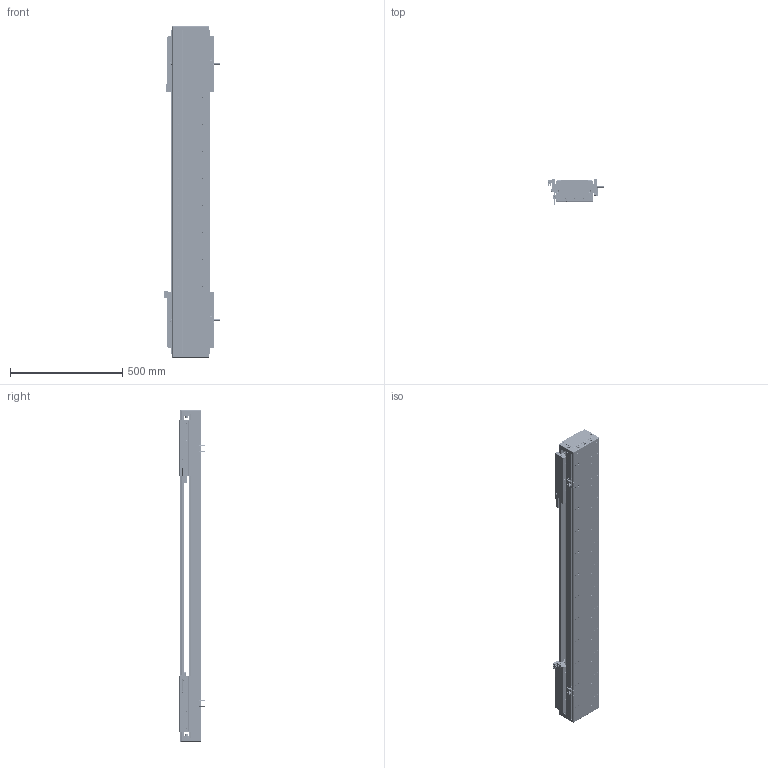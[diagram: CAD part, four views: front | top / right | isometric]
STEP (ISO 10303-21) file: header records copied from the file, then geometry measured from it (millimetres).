
FILE_DESCRIPTION (( 'STEP AP203' ), '1' );
FILE_NAME ('DA-C165-2-C3-T860-C010-0.2 直线电机.STEP', '2023-06-13T09:31:01', ( '微软用户' ), ( '微软中国' ), 'SwSTEP 2.0', 'SolidWorks 2019', '' );
FILE_SCHEMA (( 'CONFIG_CONTROL_DESIGN' ));
Length unit declared in the file: millimetre
Products named in the file (19): 葩璃 CKM03-W075-C1C2-TP-3.0^DA-C165-C3-T-C010-0.2-N 眻盄萇儂; 复件 DA126-GYP-ZJ-00 中间光电感应片^DA-C165-C3-T-C010-0.2-N 直线电机; 复件 六角薄螺母 M3^DA-C165-C3-T-C010-0.2-N 直线电机_GB_FASTENER_NUT_STNAB M3-C; 葩璃 CKM01-W075-TRL^DA-C165-C3-T-C010-0.2-N 眻盄萇儂; IU-CU165-L 菁釱絳寢; 葩璃 DA95-GT-T-00^IU-CU165-L 菁釱絳寢_T; 葩璃 PM-T45^DA-C165-C3-T-C010-0.2-N 眻盄萇儂; 珨极趙賑雄怢啣C3-wf; 复件 DA165-DG-H-N-00 端盖^DA-C165-C3-T-C010-0.2-N 直线电机; 复件 DKW-HXJ-JY-00 缓冲橡胶^DA-C165-C3-T-C010-0.2-N 直线电机; 复件 DA165-GYP-00 光电感应片^DA-C165-C3-T-C010-0.2-N 直线电机; 葩璃 PM-Y45^DA-C165-C3-T-C010-0.2-N 眻盄萇儂; 复件 XD-U-02L 磁栅尺^DA-C165-C3-T-C010-0.2-N 直线电机_T; 复件 DA165-T-002-00 盖板^DA-C165-C3-T-C010-0.2-N 直线电机_0840-002-00; 复件 CU165 底座^IU-CU165-L 底座导轨_L1440; 复件 66338-1000-006-00 光电感应块^DA-C165-C3-T-C010-0.2-N 直线电机; 复件 DA95-HXJ-00 缓冲橡胶^DA-C165-C3-T-C010-0.2-N 直线电机; 复件 DMA-010-0.2 读数头^DA-C165-C3-T-C010-0.2-N 直线电机; DA-C165-2-C3-T860-C010-0.2 眻盄萇儂
Assembly tree (40 placements, depth 3):
  DA-C165-2-C3-T860-C010-0.2 眻盄萇儂
    IU-CU165-L 菁釱絳寢
      复件 CU165 底座^IU-CU165-L 底座导轨_L1440
      葩璃 DA95-GT-T-00^IU-CU165-L 菁釱絳寢_T  x4
    复件 DA165-DG-H-N-00 端盖^DA-C165-C3-T-C010-0.2-N 直线电机  x2
    复件 DA95-HXJ-00 缓冲橡胶^DA-C165-C3-T-C010-0.2-N 直线电机  x4
    复件 DA165-T-002-00 盖板^DA-C165-C3-T-C010-0.2-N 直线电机_0840-002-00
    复件 XD-U-02L 磁栅尺^DA-C165-C3-T-C010-0.2-N 直线电机_T
    葩璃 PM-T45^DA-C165-C3-T-C010-0.2-N 眻盄萇儂  x4
    葩璃 CKM01-W075-TRL^DA-C165-C3-T-C010-0.2-N 眻盄萇儂
    复件 DMA-010-0.2 读数头^DA-C165-C3-T-C010-0.2-N 直线电机  x2
    复件 DA165-GYP-00 光电感应片^DA-C165-C3-T-C010-0.2-N 直线电机  x2
    复件 66338-1000-006-00 光电感应块^DA-C165-C3-T-C010-0.2-N 直线电机
    葩璃 PM-Y45^DA-C165-C3-T-C010-0.2-N 眻盄萇儂
    复件 DA126-GYP-ZJ-00 中间光电感应片^DA-C165-C3-T-C010-0.2-N 直线电机
    葩璃 CKM03-W075-C1C2-TP-3.0^DA-C165-C3-T-C010-0.2-N 眻盄萇儂  x2
    复件 DKW-HXJ-JY-00 缓冲橡胶^DA-C165-C3-T-C010-0.2-N 直线电机  x2
    复件 六角薄螺母 M3^DA-C165-C3-T-C010-0.2-N 直线电机_GB_FASTENER_NUT_STNAB M3-C  x8
    珨极趙賑雄怢啣C3-wf  x2
Bounding box: 247.2 x 111.45 x 1480 mm (x, y, z)
Volume: 12737590.4 mm3; surface area: 3294118 mm2
Topology: 117 solids, 217 shells, 5954 faces, 15647 edges, 9618 vertices
Faces by surface type: cylinder 2912, plane 1990, cone 956, torus 88, sphere 8
Entity records: 119482 total; most frequent: CARTESIAN_POINT 28984, DIRECTION 18565, ORIENTED_EDGE 18180, EDGE_CURVE 9090, AXIS2_PLACEMENT_3D 7001, VERTEX_POINT 5872, VECTOR 4563, LINE 4563
